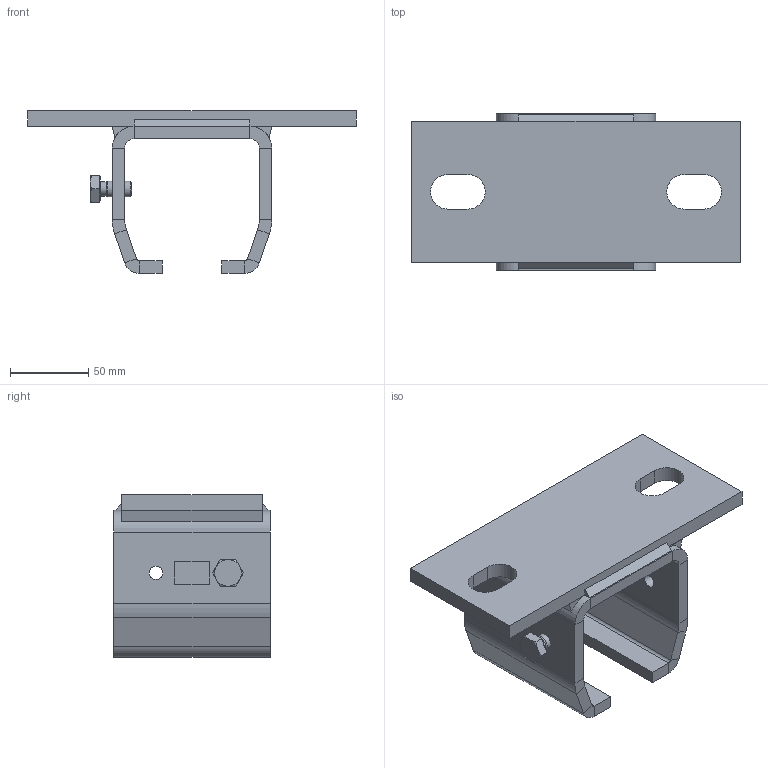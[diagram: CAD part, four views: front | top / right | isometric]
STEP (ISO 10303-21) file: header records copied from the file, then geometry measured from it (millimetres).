
FILE_DESCRIPTION(/* description */ ('Deckenbefestigung Nr.4'),/* implementation_level */ '2;1');
FILE_NAME(/* name */ 'Q:\sge-ma\Produktmanagement-STB\STB\Workspace\stp\010335740.stp',/* time_stamp */ '2015-07-09T13:54:08+02:00',/* author */ ('avschreier'),/* organization */ (''),/* preprocessor_version */ 'ST-DEVELOPER v15.6',/* originating_system */ 'Autodesk Inventor 2015',/* authorisation */ '');
FILE_SCHEMA (('CONFIG_CONTROL_DESIGN'));
Length unit declared in the file: millimetre
Products named in the file (5): 010335740_Schweißnähte; 337000133; DIN_EN_ISO_4017-M10x20_en; 337000219; 010335740
Bounding box: 210 x 100 x 104 mm (x, y, z)
Volume: 419919 mm3; surface area: 119481.6 mm2
Topology: 7 solids, 7 shells, 120 faces, 253 edges, 146 vertices
Faces by surface type: plane 85, cylinder 27, cone 8
Full cylindrical faces by diameter (mm): 8.376 x1, 8.4 x5, 9.188 x1, 10 x1, 15.4 x1
Entity records: 3191 total; most frequent: DIRECTION 548, CARTESIAN_POINT 539, ORIENTED_EDGE 482, EDGE_CURVE 241, AXIS2_PLACEMENT_3D 190, LINE 168, VECTOR 168, EDGE_LOOP 150
